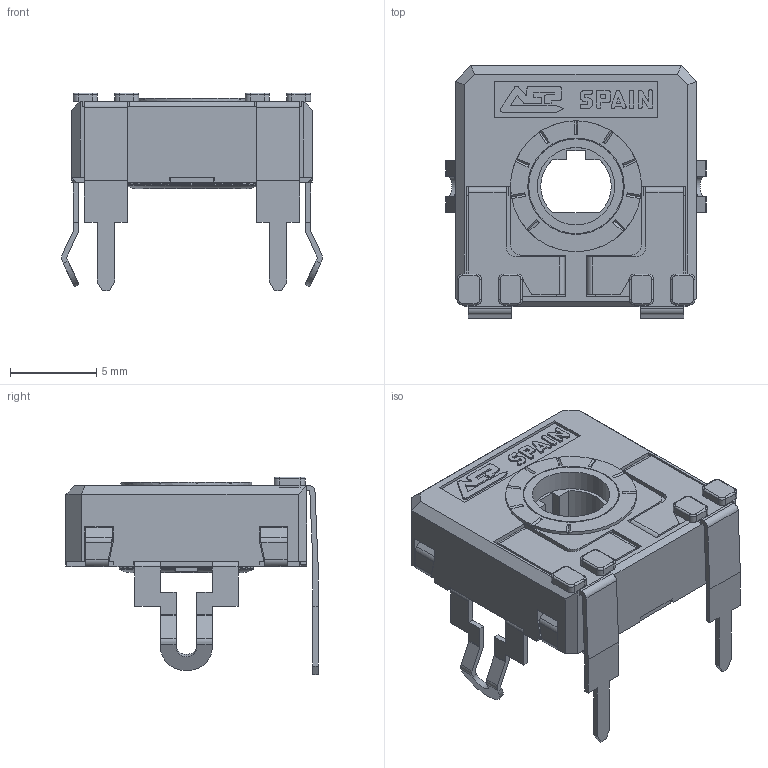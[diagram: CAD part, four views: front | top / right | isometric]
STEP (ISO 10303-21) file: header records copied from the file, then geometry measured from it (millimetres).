
FILE_DESCRIPTION(/* description */ (''),/* implementation_level */ '2;1');
FILE_NAME(/* name */ 'C:\Users\CEM\Desktop\ENVIAR\TRANSICION 3D CATALOGOS\RS14TVD7,5.stp',/* time_stamp */ '2025-12-10T11:28:11+01:00',/* author */ ('CEM'),/* organization */ (''),/* preprocessor_version */ 'ST-DEVELOPER v16.13',/* originating_system */ 'Autodesk Inventor 2018',/* authorisation */ '');
FILE_SCHEMA (('AUTOMOTIVE_DESIGN { 1 0 10303 214 3 1 1 }'));
Length unit declared in the file: millimetre
Products named in the file (1): CARCASA CA14 PGA
Bounding box: 15.16 x 14.65 x 11.5 mm (x, y, z)
Volume: 531 mm3; surface area: 1539.6 mm2
Topology: 1 solids, 1 shells, 733 faces, 2076 edges, 1336 vertices
Faces by surface type: plane 535, cylinder 161, torus 23, bspline 8, cone 6
Full cylindrical faces by diameter (mm): 4.5 x1, 5.5 x1, 5.6 x1, 5.752 x1, 6.8 x1, 7.6 x1
Entity records: 23889 total; most frequent: CARTESIAN_POINT 4340, ORIENTED_EDGE 4124, DIRECTION 3898, EDGE_CURVE 2062, LINE 1622, VECTOR 1622, VERTEX_POINT 1332, AXIS2_PLACEMENT_3D 1138
